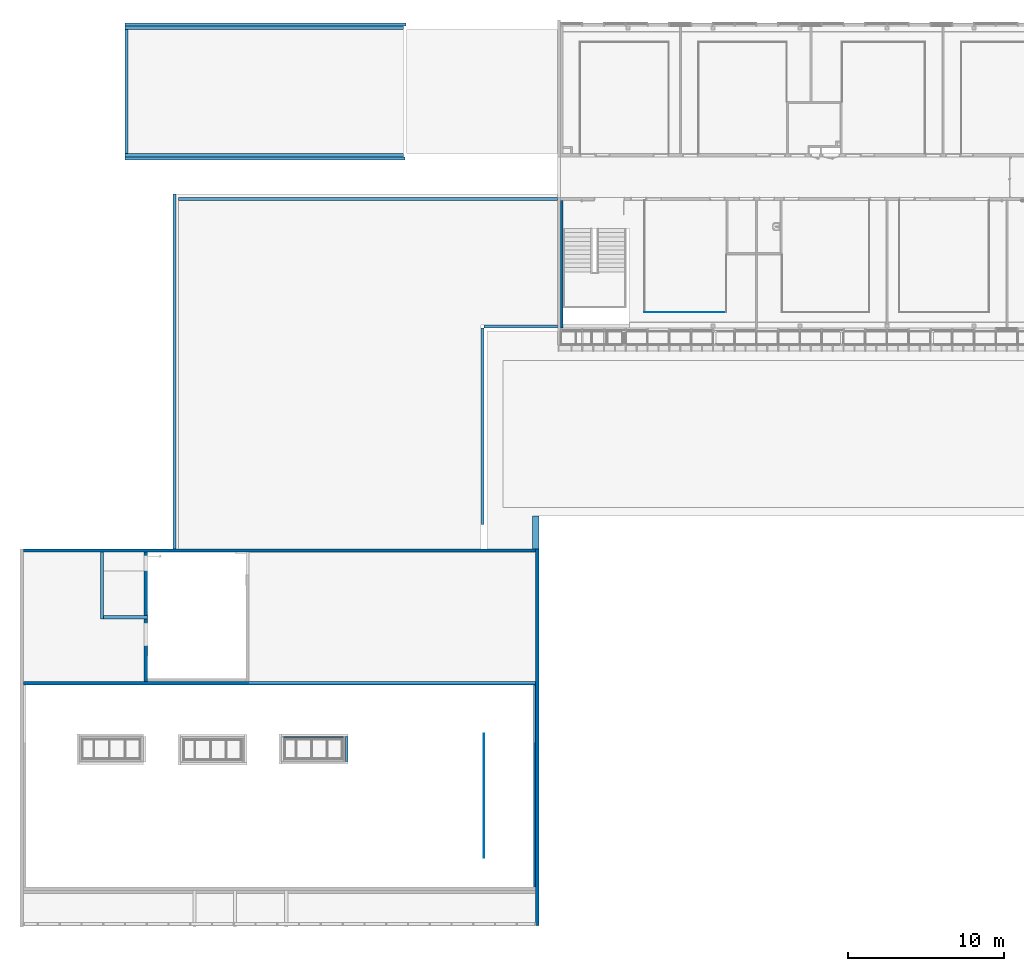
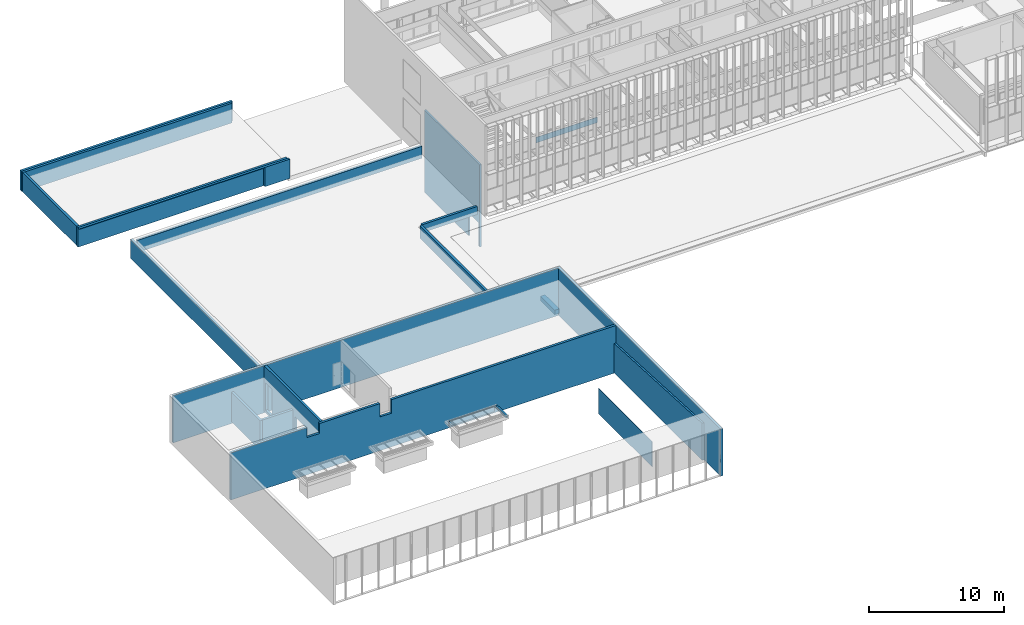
# One storey, part 36 of 106: 22 walls, 11 openings.
"""IFC2X3 building model written with IfcOpenShell, lengths in centimetres."""

from ifc_helpers import new_model, entity, si_unit, converted_unit, derived_unit, direction, frame, frame_2d, origin, origin_2d_with_axis, place, context, subcontext, project, spatial, polyline, rectangle, extrude, clip, halfspace, bounded_halfspace, material, layer, layer_set, layer_usage, type_object, element, save


model = new_model("IFC2X3")

# Units and contexts
model_context = context("Model", 3, precision=0.001, world=origin(), true_north=direction((6.12303176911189e-17, 1.0)))
body_context = subcontext(model_context, "Body", "Model", "MODEL_VIEW")
ifc_project = project(units=[si_unit("LENGTHUNIT", "METRE", prefix="CENTI"), si_unit("AREAUNIT", "SQUARE_METRE"), si_unit("VOLUMEUNIT", "CUBIC_METRE"), converted_unit("PLANEANGLEUNIT", "DEGREE", entity("IfcRatioMeasure", 0.0174532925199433), si_unit("PLANEANGLEUNIT", "RADIAN"), dimensions=[0, 0, 0, 0, 0, 0, 0]), si_unit("MASSUNIT", "GRAM", prefix="KILO"), derived_unit("MASSDENSITYUNIT", [(si_unit("MASSUNIT", "GRAM", prefix="KILO"), 1), (si_unit("LENGTHUNIT", "METRE"), -3)]), si_unit("TIMEUNIT", "SECOND"), si_unit("FREQUENCYUNIT", "HERTZ"), si_unit("THERMODYNAMICTEMPERATUREUNIT", "DEGREE_CELSIUS"), derived_unit("THERMALTRANSMITTANCEUNIT", [(si_unit("MASSUNIT", "GRAM", prefix="KILO"), 1), (si_unit("THERMODYNAMICTEMPERATUREUNIT", "KELVIN"), -1), (si_unit("TIMEUNIT", "SECOND"), -3)]), derived_unit("VOLUMETRICFLOWRATEUNIT", [(si_unit("LENGTHUNIT", "METRE"), 3), (si_unit("TIMEUNIT", "SECOND"), -1)]), si_unit("ELECTRICCURRENTUNIT", "AMPERE"), si_unit("ELECTRICVOLTAGEUNIT", "VOLT"), si_unit("POWERUNIT", "WATT"), si_unit("FORCEUNIT", "NEWTON", prefix="KILO"), si_unit("ILLUMINANCEUNIT", "LUX"), si_unit("LUMINOUSFLUXUNIT", "LUMEN"), si_unit("LUMINOUSINTENSITYUNIT", "CANDELA"), derived_unit("USERDEFINED", [(si_unit("MASSUNIT", "GRAM", prefix="KILO"), -1), (si_unit("LENGTHUNIT", "METRE"), -2), (si_unit("TIMEUNIT", "SECOND"), 3), (si_unit("LUMINOUSFLUXUNIT", "LUMEN"), 1)]), derived_unit("LINEARVELOCITYUNIT", [(si_unit("LENGTHUNIT", "METRE"), 1), (si_unit("TIMEUNIT", "SECOND"), -1)]), si_unit("PRESSUREUNIT", "PASCAL"), derived_unit("USERDEFINED", [(si_unit("LENGTHUNIT", "METRE"), -2), (si_unit("MASSUNIT", "GRAM", prefix="KILO"), 1), (si_unit("TIMEUNIT", "SECOND"), -2)])], contexts=[model_context])

# Site, building, storey
site_placement = place(None, frame((-2781.94577612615, 7442.24238424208, 0.0)))
site = spatial("IfcSite", under=ifc_project, at=site_placement, Name="Default", CompositionType="ELEMENT")
building_placement = place(site_placement, origin())
building = spatial("IfcBuilding", under=site, at=building_placement, CompositionType="ELEMENT")
storey_placement = place(building_placement, frame((0.0, 0.0, 422.0)))
storey = spatial("IfcBuildingStorey", under=building, at=storey_placement, Name="Toiture - Cuisine", CompositionType="ELEMENT", Elevation=421.999999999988)

# Wall, opening
ifc_material_1 = material(Name="Aluminium bardage")
ifc_layer_1 = layer(ifc_material_1, 0.5)
ifc_material_2 = material(Name="01 - Lame d'air")
ifc_layer_2 = layer(ifc_material_2, 1.5)
ifc_material_3 = material(Name="00 - Isolant")
ifc_layer_3 = layer(ifc_material_3, 18.0)
ifc_layer_set_1 = layer_set([ifc_layer_1, ifc_layer_2, ifc_layer_3], Name="Mur de base:04 - Parement - ITE 18cm + vide 2cm")
ifc_layer_usage_1 = layer_usage(ifc_layer_set_1, "AXIS2", "NEGATIVE", 10.0)
wall_type_1 = type_object("IfcWallType", Name="Mur de base:04 - Parement - ITE 18cm + vide 2cm", PredefinedType="STANDARD", material=ifc_layer_set_1)
wall_1_placement = place(building_placement, frame((-11210.6616968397, 20.0, 313.0)))
wall_1 = element("IfcWallStandardCase", 1, at=wall_1_placement, inside=storey, type_object=wall_type_1, material=ifc_layer_usage_1, Name="Mur de base:04 - Parement - ITE 18cm + vide 2cm", ObjectType="Mur de base:04 - Parement - ITE 18cm + vide 2cm", context=body_context, shape_type="SweptSolid", body=[
    extrude(rectangle(XDim=1806.16182233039, YDim=20.0, at=frame_2d((903.080911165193, -8.88178419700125e-16), x_axis=(-1.0, 0.0))), origin(), (0.0, 0.0, 1.0), 176.999999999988),
])
opening_1_placement = place(wall_1_placement, origin())
element("IfcOpeningElement", 2, at=opening_1_placement, cuts=wall_1, Name="Mur de base:04 - Parement - ITE 18cm + vide 2cm", ObjectType="Opening", context=body_context, shape_type="SweptSolid", body=[
    extrude(rectangle(XDim=319.61455664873, YDim=286.500000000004, at=frame_2d((8.66862137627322e-13, 0.0), x_axis=(0.0, 1.0))), frame((1243.66181917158, -25.24, -153.192721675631), z_axis=(0.0, 1.0, 0.0), x_axis=(-1.0, 0.0, 0.0)), (0.0, 0.0, 1.0), 50.48),
])

ifc_layer_usage_2 = layer_usage(ifc_layer_set_1, "AXIS2", "NEGATIVE", 10.0)
wall_2_placement = place(building_placement, frame((-9409.49987766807, -840.048500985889, 316.500000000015), z_axis=(0.0, 0.0, 1.0), x_axis=(-1.0, 0.0, 0.0)))
wall_2 = element("IfcWallStandardCase", 3, at=wall_2_placement, inside=storey, type_object=wall_type_1, material=ifc_layer_usage_2, Name="Mur de base:04 - Parement - ITE 18cm + vide 2cm", ObjectType="Mur de base:04 - Parement - ITE 18cm + vide 2cm", context=body_context, shape_type="Clipping", body=[
    clip(clip(clip(extrude(rectangle(XDim=1801.16181917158, YDim=20.0, at=frame_2d((900.580909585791, -3.28626015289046e-14), x_axis=(-1.0, 0.0))), origin(), (0.0, 0.0, 1.0), 173.999999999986), bounded_halfspace(frame((215.0, 10.0, 169.499999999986), z_axis=(-1.0, 0.0, 0.0), x_axis=(0.0, -1.0, 0.0)), True, frame((215.0, 10.0, 169.499999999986), z_axis=(-1.0, 0.0, 0.0), x_axis=(0.0, -1.0, 0.0)), polyline([(0.0, 0.0), (0.0, -169.499999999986), (20.0, -169.499999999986), (20.0, 0.0), (0.0, 0.0)]))), bounded_halfspace(frame((215.0, -10.0, 169.499999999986), z_axis=(0.0, 0.0, 1.0), x_axis=(0.0, -1.0, 0.0)), True, frame((215.0, -10.0, 169.499999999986), z_axis=(0.0, 0.0, 1.0), x_axis=(0.0, -1.0, 0.0)), polyline([(0.0, 0.0), (0.0, 1586.16181917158), (-20.0, 1586.16181917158), (-20.0, 0.0), (0.0, 0.0)]))), bounded_halfspace(frame((215.0, -10.0, 0.0), z_axis=(0.0, 0.0, 1.0), x_axis=(0.0, -1.0, 0.0)), True, frame((215.0, -10.0, 0.0), z_axis=(0.0, 0.0, 1.0), x_axis=(0.0, -1.0, 0.0)), polyline([(0.0, 0.0), (-20.0, 0.0), (-20.0, -215.0), (0.0, -215.0), (0.0, 0.0)]))),
])
opening_2_placement = place(wall_2_placement, origin())
element("IfcOpeningElement", 4, at=opening_2_placement, cuts=wall_2, Name="Mur de base:04 - Parement - ITE 18cm + vide 2cm", ObjectType="Opening", context=body_context, shape_type="SweptSolid", body=[
    extrude(rectangle(XDim=316.500000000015, YDim=99.9999999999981, at=origin_2d_with_axis()), frame((-770.553301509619, -25.2399999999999, -158.250000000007), z_axis=(0.0, 1.0, 0.0), x_axis=(0.0, 0.0, 1.0)), (0.0, 0.0, 1.0), 50.48),
])

ifc_layer_4 = layer(ifc_material_3, 14.0)
ifc_material_4 = material(Name="01 - Enduit/Plâtre")
ifc_layer_5 = layer(ifc_material_4, 1.3)
ifc_layer_set_2 = layer_set([ifc_layer_4, ifc_layer_5], Name="Mur de base:04 - Parement -  isolant 14 cm + BA13")
ifc_layer_usage_3 = layer_usage(ifc_layer_set_2, "AXIS2", "POSITIVE", -7.65)
wall_type_2 = type_object("IfcWallType", Name="Mur de base:04 - Parement -  isolant 14 cm + BA13", PredefinedType="STANDARD", material=ifc_layer_set_2)
wall_3_placement = place(building_placement, frame((-8401.84987766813, -1110.0, 0.0), z_axis=(0.0, 0.0, 1.0), x_axis=(0.0, -1.0, 0.0)))
wall_3 = element("IfcWallStandardCase", 5, at=wall_3_placement, inside=storey, type_object=wall_type_2, material=ifc_layer_usage_3, Name="Mur de base:04 - Parement -  isolant 14 cm + BA13", ObjectType="Mur de base:04 - Parement -  isolant 14 cm + BA13", context=body_context, shape_type="Clipping", body=[
    clip(extrude(rectangle(XDim=820.079033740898, YDim=15.3000000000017, at=frame_2d((410.039516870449, 0.0), x_axis=(-1.0, 0.0))), origin(), (0.0, 0.0, 1.0), 743.0), bounded_halfspace(frame((0.0, -7.64999999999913, 743.0), z_axis=(0.0, 0.0, -1.0), x_axis=(-1.0, 0.0, 0.0)), True, frame((0.0, -7.64999999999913, 743.0)), polyline([(0.0, 0.0), (180.0, 0.0), (180.0, 15.3), (0.0, 15.3), (0.0, 0.0)]))),
])
opening_3_placement = place(wall_3_placement, origin())
element("IfcOpeningElement", 6, at=opening_3_placement, cuts=wall_3, Name="Mur de base:04 - Parement -  isolant 14 cm + BA13", ObjectType="Opening", context=body_context, shape_type="SweptSolid", body=[
    extrude(rectangle(XDim=207.500000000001, YDim=147.0, at=frame_2d((0.0, 1.06581410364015e-13), x_axis=(1.0, 0.0))), frame((725.07903374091, -160.049999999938, 103.750000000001), z_axis=(0.0, 1.0, 0.0), x_axis=(0.0, 0.0, 1.0)), (0.0, 0.0, 1.0), 304.8),
])

# Walls
ifc_layer_usage_4 = layer_usage(ifc_layer_set_2, "AXIS2", "NEGATIVE", 7.65)
wall_4_placement = place(building_placement, frame((-8576.63738089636, -4225.50027342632, 313.0), z_axis=(0.0, 0.0, 1.0), x_axis=(0.0, -1.0, 0.0)))
element("IfcWallStandardCase", 7, at=wall_4_placement, inside=storey, type_object=wall_type_2, material=ifc_layer_usage_4, Name="Mur de base:04 - Parement -  isolant 14 cm + BA13", ObjectType="Mur de base:04 - Parement -  isolant 14 cm + BA13", context=body_context, shape_type="Clipping", body=[
    clip(extrude(rectangle(XDim=1301.00146098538, YDim=15.3000000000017, at=frame_2d((650.500730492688, 3.30846461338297e-13), x_axis=(-1.0, 0.0))), origin(), (0.0, 0.0, 1.0), 335.974841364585), halfspace(frame((0.0, -7.64999999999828, 267.79224395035), z_axis=(-0.0523359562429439, 0.0, 0.998629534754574), x_axis=(0.0, 1.0, 0.0)), False)),
])
ifc_material_5 = material(Name="01 - Maçonnerie")
ifc_layer_6 = layer(ifc_material_5, 20.0)
ifc_layer_set_3 = layer_set([ifc_layer_6], Name="Mur de base:04 - Structure - béton - 20cm")
ifc_layer_usage_5 = layer_usage(ifc_layer_set_3, "AXIS2", "NEGATIVE", 10.0)
wall_type_3 = type_object("IfcWallType", Name="Mur de base:04 - Structure - béton - 20cm", PredefinedType="STANDARD", material=ifc_layer_set_3)
wall_5_placement = place(building_placement, frame((-11357.482807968, -3372.52180651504, 333.0), z_axis=(0.0, 0.0, 1.0), x_axis=(0.0, -1.0, 0.0)))
element("IfcWallStandardCase", 8, at=wall_5_placement, inside=storey, type_object=wall_type_3, material=ifc_layer_usage_5, Name="Mur de base:04 - Structure - béton - 20cm", ObjectType="Mur de base:04 - Structure - béton - 20cm", context=body_context, shape_type="Clipping", body=[
    clip(clip(extrude(rectangle(XDim=428.197854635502, YDim=19.9999999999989, at=frame_2d((214.098927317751, 0.0), x_axis=(-1.0, 0.0))), origin(), (0.0, 0.0, 1.0), 266.000000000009), bounded_halfspace(frame((119.89785463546, 10.0, 1.0), z_axis=(0.0, 0.0, 1.0), x_axis=(-1.0, 0.0, 0.0)), True, frame((119.89785463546, 10.0, 1.0), z_axis=(0.0, 0.0, 1.0), x_axis=(-1.0, 0.0, 0.0)), polyline([(0.0, 0.0), (119.89785463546, 0.0), (119.89785463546, 20.0), (0.0, 20.0), (0.0, 0.0)]))), bounded_halfspace(frame((119.89785463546, -10.0, 1.0), z_axis=(1.0, 0.0, 0.0), x_axis=(0.0, 0.0, 1.0)), True, frame((119.89785463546, -10.0, 1.0), z_axis=(1.0, 0.0, 0.0), x_axis=(0.0, 0.0, 1.0)), polyline([(0.0, 0.0), (-1.0, 0.0), (-1.0, -20.0), (0.0, -20.0), (0.0, 0.0)]))),
])
ifc_layer_usage_6 = layer_usage(ifc_layer_set_3, "AXIS2", "NEGATIVE", 10.0)
wall_6_placement = place(building_placement, frame((-11347.482807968, -3790.71966115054, 313.0)))
element("IfcWallStandardCase", 9, at=wall_6_placement, inside=storey, type_object=wall_type_3, material=ifc_layer_usage_6, Name="Mur de base:04 - Structure - béton - 20cm", ObjectType="Mur de base:04 - Structure - béton - 20cm", context=body_context, shape_type="SweptSolid", body=[
    extrude(rectangle(XDim=280.600000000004, YDim=19.9999999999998, at=frame_2d((140.300000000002, -1.23456800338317e-13), x_axis=(-1.0, 0.0))), origin(), (0.0, 0.0, 1.0), 286.0),
])

# Wall, openings
ifc_layer_usage_7 = layer_usage(ifc_layer_set_3, "AXIS2", "NEGATIVE", 10.0)
wall_7_placement = place(building_placement, frame((-11076.882807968, -4205.50027342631, 328.0), z_axis=(0.0, 0.0, 1.0), x_axis=(0.0, 1.0, 0.0)))
wall_7 = element("IfcWallStandardCase", 10, at=wall_7_placement, inside=storey, type_object=wall_type_3, material=ifc_layer_usage_7, Name="Mur de base:04 - Structure - béton - 20cm", ObjectType="Mur de base:04 - Structure - béton - 20cm", context=body_context, shape_type="Clipping", body=[
    clip(extrude(rectangle(XDim=832.978466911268, YDim=19.9999999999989, at=frame_2d((416.489233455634, 0.0), x_axis=(-1.0, 0.0))), origin(), (0.0, 0.0, 1.0), 411.999999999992), halfspace(frame((832.978466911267, -10.0, 0.0), z_axis=(0.0, 0.0, -1.0), x_axis=(0.0, 1.0, 0.0)), False)),
])
opening_4_placement = place(wall_7_placement, frame((812.978466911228, 10.0, 21.0)))
element("IfcOpeningElement", 11, at=opening_4_placement, cuts=wall_7, Name="Int. Simple:PP EXT - Local poubelle  (0.93m x 2.50m):1", ObjectType="Opening", context=body_context, shape_type="SweptSolid", body=[
    extrude(rectangle(XDim=250.000000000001, YDim=99.9999999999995, at=frame_2d((125.000000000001, 49.9999999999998), x_axis=(1.0, 0.0))), frame((0.0, 0.0, 0.0), z_axis=(0.0, -1.0, 0.0), x_axis=(0.0, 0.0, 1.0)), (0.0, 0.0, 1.0), 20.0),
])
opening_5_placement = place(wall_7_placement, frame((378.280612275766, 10.0, 21.0)))
element("IfcOpeningElement", 12, at=opening_5_placement, cuts=wall_7, Name="Int. Double:PP (1.40m x 2.04m):1", ObjectType="Opening", context=body_context, shape_type="SweptSolid", body=[
    extrude(rectangle(XDim=207.500000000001, YDim=147.0, at=frame_2d((103.750000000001, 73.5000000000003), x_axis=(1.0, 0.0))), frame((0.0, 0.0, 0.0), z_axis=(0.0, -1.0, 0.0), x_axis=(0.0, 0.0, 1.0)), (0.0, 0.0, 1.0), 20.0),
])

# Walls
ifc_layer_usage_8 = layer_usage(ifc_layer_set_3, "AXIS2", "NEGATIVE", 10.0)
wall_8_placement = place(building_placement, frame((-8558.98738089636, -5774.00173441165, 313.0), z_axis=(0.0, 0.0, 1.0), x_axis=(0.0, 1.0, 0.0)))
element("IfcWallStandardCase", 13, at=wall_8_placement, inside=storey, type_object=wall_type_3, material=ifc_layer_usage_8, Name="Mur de base:04 - Structure - béton - 20cm", ObjectType="Mur de base:04 - Structure - béton - 20cm", context=body_context, shape_type="SweptSolid", body=[
    extrude(rectangle(XDim=2421.4799278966, YDim=19.9999999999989, at=frame_2d((1210.7399639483, 3.5527136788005e-15), x_axis=(-1.0, 0.0))), origin(), (0.0, 0.0, 1.0), 427.000000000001),
])
ifc_layer_usage_9 = layer_usage(ifc_layer_set_3, "AXIS2", "NEGATIVE", 10.0)
wall_9_placement = place(building_placement, frame((-8911.932180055, -3195.07903364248, 260.0), z_axis=(0.0, 0.0, 1.0), x_axis=(0.0, 1.0, 0.0)))
element("IfcWallStandardCase", 14, at=wall_9_placement, inside=storey, type_object=wall_type_3, material=ifc_layer_usage_9, Name="Mur de base:04 - Structure - béton - 20cm", ObjectType="Mur de base:04 - Structure - béton - 20cm", context=body_context, shape_type="SweptSolid", body=[
    extrude(rectangle(XDim=1265.00000000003, YDim=19.9999999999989, at=frame_2d((632.500000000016, 1.06581410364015e-14), x_axis=(-1.0, 0.0))), origin(), (0.0, 0.0, 1.0), 114.0),
])

# Wall, openings
ifc_layer_usage_10 = layer_usage(ifc_layer_set_3, "AXIS2", "NEGATIVE", 10.0)
wall_10_placement = place(building_placement, frame((-11864.3505746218, -4215.50027342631, 313.0)))
wall_10 = element("IfcWallStandardCase", 15, at=wall_10_placement, inside=storey, type_object=wall_type_3, material=ifc_layer_usage_10, Name="Mur de base:04 - Structure - béton - 20cm", ObjectType="Mur de base:04 - Structure - béton - 20cm", context=body_context, shape_type="SweptSolid", body=[
    extrude(rectangle(XDim=3295.36319372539, YDim=20.0000000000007, at=frame_2d((1647.6815968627, 2.0961010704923e-13), x_axis=(-1.0, 0.0))), origin(), (0.0, 0.0, 1.0), 426.999999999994),
])
opening_6_placement = place(building_placement, frame((-11864.3505746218, -4215.50027342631, 313.0)))
element("IfcOpeningElement", 16, at=opening_6_placement, cuts=wall_10, Name="Mur de base:04 - Structure - béton - 20cm:1", ObjectType="Opening", context=body_context, shape_type="SweptSolid", body=[
    extrude(rectangle(XDim=1842.97735720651, YDim=10.0000000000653, at=frame_2d((0.0, -1.29940502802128e-12), x_axis=(1.0, 0.0))), frame((2373.87451512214, 5.0, 286.0)), (0.0, 0.0, 1.0), 36.0),
])
opening_7_placement = place(wall_10_placement, origin())
element("IfcOpeningElement", 17, at=opening_7_placement, cuts=wall_10, Name="Mur de base:04 - Structure - béton - 20cm:4570", ObjectType="Opening", context=body_context, shape_type="SweptSolid", body=[
    extrude(rectangle(XDim=121.779999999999, YDim=99.9999999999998, at=frame_2d((8.66862137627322e-13, 1.63424829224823e-13), x_axis=(0.0, 1.0))), frame((1326.02583651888, 10.0, 366.109999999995), z_axis=(0.0, -1.0, 0.0), x_axis=(-1.0, 0.0, 0.0)), (0.0, 0.0, 1.0), 20.0),
])
opening_8_placement = place(wall_10_placement, origin())
element("IfcOpeningElement", 18, at=opening_8_placement, cuts=wall_10, Name="Mur de base:04 - Structure - béton - 20cm:4570", ObjectType="Opening", context=body_context, shape_type="SweptSolid", body=[
    extrude(rectangle(XDim=89.9956594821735, YDim=110.000000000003, at=frame_2d((0.0, -5.6843418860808e-14), x_axis=(0.0, 1.0))), frame((705.467766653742, 10.0, 382.002170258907), z_axis=(0.0, -1.0, 0.0), x_axis=(-1.0, 0.0, 0.0)), (0.0, 0.0, 1.0), 20.0),
])

# Wall, opening
ifc_layer_usage_11 = layer_usage(ifc_layer_set_3, "AXIS2", "NEGATIVE", 10.0)
wall_11_placement = place(building_placement, frame((-11864.3505746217, -3362.52180651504, 313.0)))
wall_11 = element("IfcWallStandardCase", 19, at=wall_11_placement, inside=storey, type_object=wall_type_3, material=ifc_layer_usage_11, Name="Mur de base:04 - Structure - béton - 20cm", ObjectType="Mur de base:04 - Structure - béton - 20cm", context=body_context, shape_type="SweptSolid", body=[
    extrude(rectangle(XDim=3295.36319372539, YDim=19.9999999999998, at=frame_2d((1647.6815968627, -1.4210854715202e-14), x_axis=(-1.0, 0.0))), origin(), (0.0, 0.0, 1.0), 426.999999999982),
])
opening_9_placement = place(wall_11_placement, origin())
element("IfcOpeningElement", 20, at=opening_9_placement, cuts=wall_11, Name="Mur de base:04 - Structure - béton - 20cm", ObjectType="Opening", context=body_context, shape_type="SweptSolid", body=[
    extrude(rectangle(XDim=207.500000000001, YDim=20.0000000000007, at=frame_2d((-8.66862137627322e-13, 4.9737991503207e-14), x_axis=(0.0, 1.0))), frame((1442.38583651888, -157.0, 139.74999999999), z_axis=(0.0, 1.0, 0.0), x_axis=(-1.0, 0.0, 0.0)), (0.0, 0.0, 1.0), 147.0),
])

# Wall
ifc_layer_usage_12 = layer_usage(ifc_layer_set_3, "AXIS2", "NEGATIVE", 10.0)
wall_12_placement = place(building_placement, frame((-10865.6130476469, -1100.0, 313.0)))
element("IfcWallStandardCase", 21, at=wall_12_placement, inside=storey, type_object=wall_type_3, material=ifc_layer_usage_12, Name="Mur de base:04 - Structure - béton - 20cm", ObjectType="Mur de base:04 - Structure - béton - 20cm", context=body_context, shape_type="SweptSolid", body=[
    extrude(rectangle(XDim=2436.11316997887, YDim=19.9999999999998, at=frame_2d((1218.05658498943, -8.88178419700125e-15), x_axis=(-1.0, 0.0))), origin(), (0.0, 0.0, 1.0), 109.0),
])

# Wall, openings
ifc_layer_usage_13 = layer_usage(ifc_layer_set_3, "AXIS2", "NEGATIVE", 10.0)
wall_13_placement = place(building_placement, frame((-10891.6130476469, -1070.0, 250.0), z_axis=(0.0, 0.0, 1.0), x_axis=(0.0, -1.0, 0.0)))
wall_13 = element("IfcWallStandardCase", 22, at=wall_13_placement, inside=storey, type_object=wall_type_3, material=ifc_layer_usage_13, Name="Mur de base:04 - Structure - béton - 20cm", ObjectType="Mur de base:04 - Structure - béton - 20cm", context=body_context, shape_type="SweptSolid", body=[
    extrude(rectangle(XDim=2282.52180661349, YDim=19.9999999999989, at=frame_2d((1141.26090330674, 1.15463194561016e-14), x_axis=(-1.0, 0.0))), origin(), (0.0, 0.0, 1.0), 172.0),
])
opening_10_placement = place(wall_13_placement, origin())
element("IfcOpeningElement", 23, at=opening_10_placement, cuts=wall_13, Name="Mur de base:04 - Structure - béton - 20cm", ObjectType="Opening", context=body_context, shape_type="SweptSolid", body=[
    extrude(rectangle(XDim=265.0, YDim=149.999999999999, at=frame_2d((0.0, -1.06581410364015e-13), x_axis=(1.0, 0.0))), frame((765.039516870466, -10.1000000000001, -132.5), z_axis=(0.0, 1.0, 0.0), x_axis=(0.0, 0.0, -1.0)), (0.0, 0.0, 1.0), 61.2999999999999),
])
opening_11_placement = place(wall_13_placement, origin())
element("IfcOpeningElement", 24, at=opening_11_placement, cuts=wall_13, Name="Mur de base:04 - Structure - béton - 20cm", ObjectType="Opening", context=body_context, shape_type="SweptSolid", body=[
    extrude(rectangle(XDim=250.000000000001, YDim=99.9999999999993, at=frame_2d((-2.16715534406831e-13, 0.0), x_axis=(0.0, 1.0))), frame((2134.27157988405, -162.399999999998, -125.0), z_axis=(0.0, 1.0, 0.0), x_axis=(-1.0, 0.0, 0.0)), (0.0, 0.0, 1.0), 304.8),
])

# Walls
ifc_layer_usage_14 = layer_usage(ifc_layer_set_3, "AXIS2", "NEGATIVE", 10.0)
wall_14_placement = place(building_placement, frame((-11210.6616968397, -820.048500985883, 313.0)))
element("IfcWallStandardCase", 25, at=wall_14_placement, inside=storey, type_object=wall_type_3, material=ifc_layer_usage_14, Name="Mur de base:04 - Structure - béton - 20cm", ObjectType="Mur de base:04 - Structure - béton - 20cm", context=body_context, shape_type="SweptSolid", body=[
    extrude(rectangle(XDim=1791.16181917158, YDim=20.0, at=frame_2d((895.58090958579, 0.0), x_axis=(-1.0, 0.0))), origin(), (0.0, 0.0, 1.0), 177.000000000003),
])
ifc_layer_usage_15 = layer_usage(ifc_layer_set_3, "AXIS2", "NEGATIVE", 10.0)
wall_15_placement = place(building_placement, frame((-11210.6616968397, 0.0, 313.0)))
element("IfcWallStandardCase", 26, at=wall_15_placement, inside=storey, type_object=wall_type_3, material=ifc_layer_usage_15, Name="Mur de base:04 - Structure - béton - 20cm", ObjectType="Mur de base:04 - Structure - béton - 20cm", context=body_context, shape_type="Clipping", body=[
    clip(extrude(rectangle(XDim=1791.16181917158, YDim=20.0, at=frame_2d((895.58090958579, 8.88178419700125e-16), x_axis=(-1.0, 0.0))), origin(), (0.0, 0.0, 1.0), 176.999999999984), bounded_halfspace(frame((20.0, -10.0, 2.0), z_axis=(0.0, 0.0, 1.0), x_axis=(0.0, -1.0, 0.0)), True, frame((20.0, -10.0, 2.0), z_axis=(0.0, 0.0, 1.0), x_axis=(0.0, -1.0, 0.0)), polyline([(0.0, 0.0), (0.0, 720.0), (-20.0, 720.0), (-20.0, 0.0), (0.0, 0.0)]))),
])
ifc_layer_usage_16 = layer_usage(ifc_layer_set_3, "AXIS2", "NEGATIVE", 10.0)
wall_16_placement = place(building_placement, frame((-11200.6616968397, -810.048500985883, 315.0), z_axis=(0.0, 0.0, 1.0), x_axis=(0.0, 1.0, 0.0)))
element("IfcWallStandardCase", 27, at=wall_16_placement, inside=storey, type_object=wall_type_3, material=ifc_layer_usage_16, Name="Mur de base:04 - Structure - béton - 20cm", ObjectType="Mur de base:04 - Structure - béton - 20cm", context=body_context, shape_type="SweptSolid", body=[
    extrude(rectangle(XDim=800.04850098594, YDim=19.9999999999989, at=frame_2d((400.02425049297, -1.33226762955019e-13), x_axis=(-1.0, 0.0))), origin(), (0.0, 0.0, 1.0), 175.5),
])
ifc_layer_usage_17 = layer_usage(ifc_layer_set_3, "AXIS2", "NEGATIVE", 10.0)
wall_17_placement = place(building_placement, frame((-8901.93218005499, -1920.07903364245, 302.0)))
element("IfcWallStandardCase", 28, at=wall_17_placement, inside=storey, type_object=wall_type_3, material=ifc_layer_usage_17, Name="Mur de base:04 - Structure - béton - 20cm", ObjectType="Mur de base:04 - Structure - béton - 20cm", context=body_context, shape_type="SweptSolid", body=[
    extrude(rectangle(XDim=472.432302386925, YDim=20.0000000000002, at=frame_2d((236.216151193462, -4.44089209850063e-15), x_axis=(-1.0, 0.0))), origin(), (0.0, 0.0, 1.0), 71.9999999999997),
])
ifc_layer_7 = layer(ifc_material_5, 40.0)
ifc_layer_set_4 = layer_set([ifc_layer_7], Name="Mur de base:04 - Structure - Béton - 40")
ifc_layer_usage_18 = layer_usage(ifc_layer_set_4, "AXIS2", "NEGATIVE", 20.0)
wall_type_4 = type_object("IfcWallType", Name="Mur de base:04 - Structure - Béton - 40", PredefinedType="STANDARD", material=ifc_layer_set_4)
wall_18_placement = place(building_placement, frame((-8568.98738089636, -3352.52180651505, 313.0), z_axis=(0.0, 0.0, 1.0), x_axis=(0.0, 1.0, 0.0)))
element("IfcWallStandardCase", 29, at=wall_18_placement, inside=storey, type_object=wall_type_4, material=ifc_layer_usage_18, Name="Mur de base:04 - Structure - Béton - 40", ObjectType="Mur de base:04 - Structure - Béton - 40", context=body_context, shape_type="SweptSolid", body=[
    extrude(rectangle(XDim=212.208306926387, YDim=40.0000000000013, at=frame_2d((106.104153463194, 0.0), x_axis=(-1.0, 0.0))), origin(), (0.0, 0.0, 1.0), 40.0),
])
ifc_layer_8 = layer(ifc_material_3, 16.0)
ifc_layer_set_5 = layer_set([ifc_layer_8], Name="Mur de base:04 - retour isolation acrotère - ITE 16cm")
ifc_layer_usage_19 = layer_usage(ifc_layer_set_5, "AXIS2", "NEGATIVE", 8.0)
wall_type_5 = type_object("IfcWallType", Name="Mur de base:04 - retour isolation acrotère - ITE 16cm", PredefinedType="STANDARD", material=ifc_layer_set_5)
wall_19_placement = place(building_placement, frame((-9784.35057462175, -4558.48097835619, 625.393595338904), z_axis=(0.0, 0.0, 1.0), x_axis=(0.0, -1.0, 0.0)))
element("IfcWallStandardCase", 30, at=wall_19_placement, inside=storey, type_object=wall_type_5, material=ifc_layer_usage_19, Name="Mur de base:04 - retour isolation acrotère - ITE 16cm", ObjectType="Mur de base:04 - retour isolation acrotère - ITE 16cm", context=body_context, shape_type="Clipping", body=[
    clip(extrude(rectangle(XDim=160.000000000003, YDim=15.9999999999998, at=frame_2d((80.0000000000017, 0.0), x_axis=(-1.0, 0.0))), origin(), (0.0, 0.0, 1.0), 20.3299167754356), bounded_halfspace(frame((151.738209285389, -8.0, 1.32982357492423), z_axis=(-0.0523359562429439, 0.0, 0.998629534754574), x_axis=(0.0, -1.0, 0.0)), True, frame((151.738209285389, -8.0, 1.32982357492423), z_axis=(-0.0523359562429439, 0.0, 0.998629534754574), x_axis=(0.0, -1.0, 0.0)), polyline([(0.0, 0.0), (0.0, 8.27312875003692), (-16.0, 8.27312875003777), (-16.0, -25.4093680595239), (0.0, -25.4093680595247), (0.0, 0.0)]))),
])
ifc_layer_9 = layer(ifc_material_4, 1.3)
ifc_material_6 = material(Name="00 - VIDE D'AIR")
ifc_layer_10 = layer(ifc_material_6, 0.7)
ifc_layer_set_6 = layer_set([ifc_layer_9, ifc_layer_10], Name="Mur de base:06 - habillage Ba13 collée 2cm")
ifc_layer_usage_20 = layer_usage(ifc_layer_set_6, "AXIS2", "NEGATIVE", 1.0)
wall_type_6 = type_object("IfcWallType", Name="Mur de base:06 - habillage Ba13 collée 2cm", PredefinedType="STANDARD", material=ifc_layer_set_6)
wall_20_placement = place(building_placement, frame((-7344.49987760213, -1829.07903364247, 692.0), z_axis=(0.0, 0.0, 1.0), x_axis=(-1.0, 0.0, 0.0)))
element("IfcWallStandardCase", 31, at=wall_20_placement, inside=storey, type_object=wall_type_6, material=ifc_layer_usage_20, Name="Mur de base:06 - habillage Ba13 collée 2cm", ObjectType="Mur de base:06 - habillage Ba13 collée 2cm", context=body_context, shape_type="Clipping", body=[
    clip(extrude(rectangle(XDim=525.000164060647, YDim=1.99999999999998, at=frame_2d((262.500082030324, 6.94444501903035e-14), x_axis=(-1.0, 0.0))), origin(), (0.0, 0.0, 1.0), 50.9999999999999), bounded_halfspace(frame((0.0, -1.0, 51.0), z_axis=(0.0, 0.0, -1.0), x_axis=(0.0, -1.0, 0.0)), True, frame((0.0, -1.0, 51.0)), polyline([(0.0, 0.0), (523.000164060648, 0.0), (525.000164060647, 0.0), (525.000164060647, 2.0), (0.0, 2.0), (0.0, 0.0)]))),
])
ifc_material_7 = material(Name="CP bouleau perforé")
ifc_layer_11 = layer(ifc_material_7, 2.0)
ifc_layer_set_7 = layer_set([ifc_layer_11], Name="Mur de base:06 - habillage bois collée 2cm perforé")
ifc_layer_usage_21 = layer_usage(ifc_layer_set_7, "AXIS2", "NEGATIVE", 1.0)
wall_type_7 = type_object("IfcWallType", Name="Mur de base:06 - habillage bois collée 2cm perforé", PredefinedType="STANDARD", material=ifc_layer_set_7)
wall_21_placement = place(building_placement, frame((-8900.98738089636, -5336.66461423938, 250.0), z_axis=(0.0, 0.0, 1.0), x_axis=(0.0, 1.0, 0.0)))
element("IfcWallStandardCase", 32, at=wall_21_placement, inside=storey, type_object=wall_type_7, material=ifc_layer_usage_21, Name="Mur de base:06 - habillage bois collée 2cm perforé", ObjectType="Mur de base:06 - habillage bois collée 2cm perforé", context=body_context, shape_type="SweptSolid", body=[
    extrude(rectangle(XDim=796.0, YDim=1.99999999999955, at=frame_2d((398.0, -4.90718576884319e-14), x_axis=(-1.0, 0.0))), origin(), (0.0, 0.0, 1.0), 230.0),
])
ifc_material_8 = material(Name="Bois - Bois de construction de dimensions courantes")
ifc_layer_12 = layer(ifc_material_8, 10.0)
ifc_layer_set_8 = layer_set([ifc_layer_12], Name="Mur de base:04 - Structure - Poutre bois -")
ifc_layer_usage_22 = layer_usage(ifc_layer_set_8, "AXIS2", "NEGATIVE", 5.0)
wall_type_8 = type_object("IfcWallType", Name="Mur de base:04 - Structure - Poutre bois -", PredefinedType="STANDARD", material=ifc_layer_set_8)
wall_22_placement = place(building_placement, frame((-10192.3505746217, -4563.48097835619, 602.021942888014)))
element("IfcWallStandardCase", 33, at=wall_22_placement, inside=storey, type_object=wall_type_8, material=ifc_layer_usage_22, Name="Mur de base:04 - Structure - Poutre bois -", ObjectType="Mur de base:04 - Structure - Poutre bois -", context=body_context, shape_type="SweptSolid", body=[
    extrude(rectangle(XDim=387.999999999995, YDim=9.99999999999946, at=frame_2d((193.999999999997, -6.21724893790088e-14), x_axis=(-1.0, 0.0))), origin(), (0.0, 0.0, 1.0), 43.0997103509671),
])

save(model, "model.ifc")
